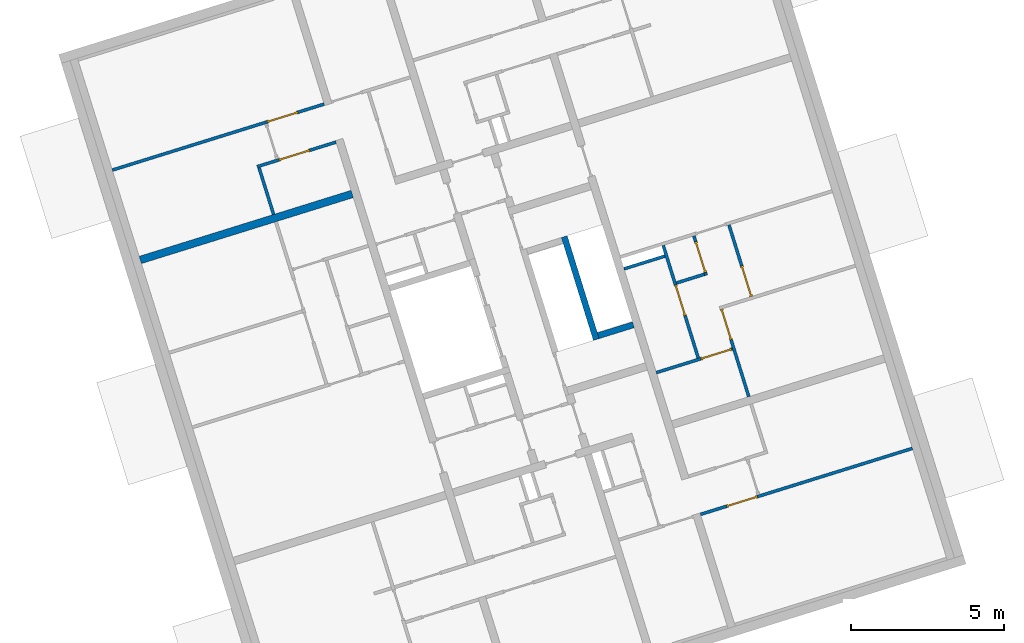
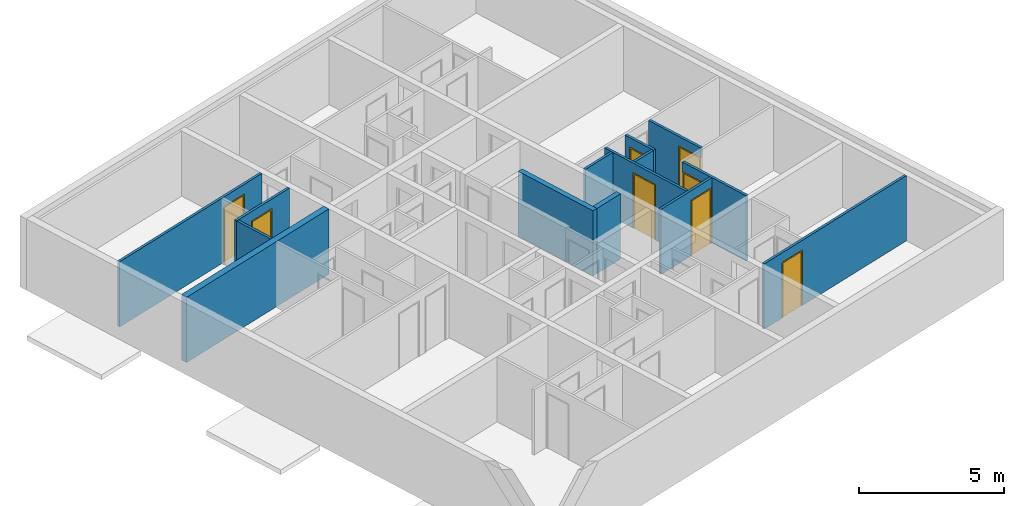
# One storey, part 4 of 9: 14 walls, 8 doors, 8 openings.
"""IFC4 building model written with IfcOpenShell, lengths in metres."""

import ifcopenshell
import ifcopenshell.guid

model = None  # the IFC model being written
_history = None  # IfcOwnerHistory: only IFC2X3 demands one
_inside = {}  # id of a spatial element -> (the spatial element, [elements in it])
_under = {}  # id of a project, library or spatial element -> (it, [spatial elements below it])
_declared = {}  # id of a project -> (the project, [libraries it declares])
_typed = {}  # id of a type object -> (the type object, [elements of that type])
_made_of = {}  # id of a material, layer set ... -> (it, [elements and type objects made of it])


def new_model(schema):
    """Start an empty IFC model of exactly this schema.

    Asked for "IFC4X3", IfcOpenShell would pick the latest addendum, in which some entities
    have other attributes; the version numbers below select the first issue.
    IFC2X3 requires an IfcOwnerHistory on every rooted entity: one is made here for all.
    """
    global model, _history
    if schema == "IFC4X3":
        model = ifcopenshell.file(schema_version=(4, 3, 0, 0))
    else:
        model = ifcopenshell.file(schema=schema)
    _inside.clear()
    _under.clear()
    _declared.clear()
    _typed.clear()
    _made_of.clear()
    _history = None
    if model.schema == "IFC2X3":
        org = make("IfcOrganization", Name="unknown")
        user = make(
            "IfcPersonAndOrganization",
            ThePerson=make("IfcPerson", FamilyName="unknown"),
            TheOrganization=org,
        )
        app = make(
            "IfcApplication",
            ApplicationDeveloper=org,
            Version="unknown",
            ApplicationFullName="unknown",
            ApplicationIdentifier="unknown",
        )
        _history = make(
            "IfcOwnerHistory",
            OwningUser=user,
            OwningApplication=app,
            ChangeAction="ADDED",
            CreationDate=0,
        )
    return model


def make(cls, **values):
    """One entity of the class cls with the attributes given. An attribute that is None is left unset."""
    return model.create_entity(
        cls, **{name: value for name, value in values.items() if value is not None}
    )


def entity(cls, *values):
    """Any entity or typed value of the class cls, its attributes in the order of the schema. None: left unset."""
    e = model.create_entity(cls)
    for i, value in enumerate(values):
        if value is not None:
            e[i] = value
    return e


def rooted(cls, **values):
    """An entity with a GlobalId (a new one), such as an element, a storey or a relation."""
    return make(cls, GlobalId=ifcopenshell.guid.new(), OwnerHistory=_history, **values)


def si_unit(unit_type, name, prefix=None):
    """IfcSIUnit, for example si_unit("LENGTHUNIT", "METRE", prefix="MILLI")."""
    return make("IfcSIUnit", UnitType=unit_type, Prefix=prefix, Name=name)


def converted_unit(unit_type, name, factor, base, dimensions=None, offset=None):
    """IfcConversionBasedUnit, such as the inch: factor (a typed value) times the base unit."""
    return make(
        "IfcConversionBasedUnit"
        if offset is None
        else "IfcConversionBasedUnitWithOffset",
        ConversionOffset=offset,
        Dimensions=None
        if dimensions is None
        else entity("IfcDimensionalExponents", *dimensions),
        UnitType=unit_type,
        Name=name,
        ConversionFactor=make(
            "IfcMeasureWithUnit", ValueComponent=factor, UnitComponent=base
        ),
    )


def assignment(units):
    """IfcUnitAssignment: the units of a project."""
    return None if units is None else make("IfcUnitAssignment", Units=units)


def point(xyz):
    """IfcCartesianPoint."""
    return None if xyz is None else make("IfcCartesianPoint", Coordinates=xyz)


def direction(xyz):
    """IfcDirection."""
    return None if xyz is None else make("IfcDirection", DirectionRatios=xyz)


def frame(location, z_axis=None, x_axis=None):
    """IfcAxis2Placement3D, a coordinate frame: its origin and axes. An axis left out is left unset."""
    return make(
        "IfcAxis2Placement3D",
        Location=point(location),
        Axis=direction(z_axis),
        RefDirection=direction(x_axis),
    )


def origin():
    """The frame at (0, 0, 0) with its axes left unset."""
    return frame((0.0, 0.0, 0.0))


def place(relative_to, where):
    """IfcLocalPlacement: puts the frame where relative to a parent placement (None: the world)."""
    return make(
        "IfcLocalPlacement", PlacementRelTo=relative_to, RelativePlacement=where
    )


def context(
    kind, dimensions, precision=None, world=None, true_north=None, identifier=None
):
    """IfcGeometricRepresentationContext, for example the 3D "Model" context."""
    return make(
        "IfcGeometricRepresentationContext",
        ContextIdentifier=identifier,
        ContextType=kind,
        CoordinateSpaceDimension=dimensions,
        Precision=precision,
        WorldCoordinateSystem=world,
        TrueNorth=true_north,
    )


def subcontext(parent, identifier, kind, view, scale=None):
    """IfcGeometricRepresentationSubContext, for example "Body" below "Model"."""
    return make(
        "IfcGeometricRepresentationSubContext",
        ContextIdentifier=identifier,
        ContextType=kind,
        ParentContext=parent,
        TargetScale=scale,
        TargetView=view,
    )


def project(units=None, contexts=None):
    """IfcProject with its units and contexts."""
    return rooted(
        "IfcProject",
        Name="project",
        RepresentationContexts=contexts,
        UnitsInContext=assignment(units),
    )


def spatial(cls, under=None, at=None, **own):
    """A site, building, storey or space (cls), placed at a placement, below another one or the project."""
    s = rooted(cls, ObjectPlacement=at, **own)
    if under is not None:
        _under.setdefault(under.id(), (under, []))[1].append(s)
    return s


def point_list(points):
    """IfcCartesianPointList2D or 3D."""
    cls = (
        "IfcCartesianPointList2D" if len(points[0]) == 2 else "IfcCartesianPointList3D"
    )
    return make(cls, CoordList=points)


def indexed_curve(points, segments=None, self_intersect=None):
    """IfcIndexedPolyCurve: lines and arcs through numbered points (the first is 1)."""
    return make(
        "IfcIndexedPolyCurve",
        Points=point_list(points),
        Segments=segments,
        SelfIntersect=self_intersect,
    )


def outline(outer, holes=None, kind="AREA"):
    """IfcArbitraryClosedProfileDef: a profile drawn as a closed curve; with holes, ...WithVoids."""
    if holes is None:
        return make("IfcArbitraryClosedProfileDef", ProfileType=kind, OuterCurve=outer)
    return make(
        "IfcArbitraryProfileDefWithVoids",
        ProfileType=kind,
        OuterCurve=outer,
        InnerCurves=holes,
    )


def extrude(swept, where, along, depth):
    """IfcExtrudedAreaSolid: the profile swept, set in the frame where, extruded along a direction by depth."""
    return make(
        "IfcExtrudedAreaSolid",
        SweptArea=swept,
        Position=where,
        ExtrudedDirection=direction(along),
        Depth=depth,
    )


def polygons(points, faces, closed=None, point_numbers=None):
    """IfcPolygonalFaceSet: a face is its outer loop, then its inner loops; points numbered from 1."""
    made = []
    for loops in faces:
        if len(loops) == 1:
            made.append(make("IfcIndexedPolygonalFace", CoordIndex=loops[0]))
        else:
            made.append(
                make(
                    "IfcIndexedPolygonalFaceWithVoids",
                    CoordIndex=loops[0],
                    InnerCoordIndices=loops[1:],
                )
            )
    return make(
        "IfcPolygonalFaceSet",
        Coordinates=point_list(points),
        Closed=closed,
        Faces=made,
        PnIndex=point_numbers,
    )


def shape(context_of_items, identifier, shape_type, items):
    """IfcShapeRepresentation: the items that make up one representation, for example the "Body"."""
    return make(
        "IfcShapeRepresentation",
        ContextOfItems=context_of_items,
        RepresentationIdentifier=identifier,
        RepresentationType=shape_type,
        Items=items,
    )


def source(mapping_origin, context_of_items, identifier, shape_type, items):
    """IfcRepresentationMap: a shape defined once, which mapped items show again and again."""
    return make(
        "IfcRepresentationMap",
        MappingOrigin=mapping_origin,
        MappedRepresentation=shape(context_of_items, identifier, shape_type, items),
    )


def transform(
    local_origin,
    x_axis=None,
    y_axis=None,
    z_axis=None,
    scale=None,
    scale2=None,
    scale3=None,
    uniform=True,
):
    """IfcCartesianTransformationOperator3D, or its non-uniform kind. x_axis, y_axis, z_axis: its Axis1, 2, 3."""
    if uniform:
        return make(
            "IfcCartesianTransformationOperator3D",
            Axis1=direction(x_axis),
            Axis2=direction(y_axis),
            LocalOrigin=point(local_origin),
            Scale=scale,
            Axis3=direction(z_axis),
        )
    return make(
        "IfcCartesianTransformationOperator3DnonUniform",
        Axis1=direction(x_axis),
        Axis2=direction(y_axis),
        LocalOrigin=point(local_origin),
        Scale=scale,
        Axis3=direction(z_axis),
        Scale2=scale2,
        Scale3=scale3,
    )


def mapped(mapping_source, mapping_target):
    """IfcMappedItem: shows the shape of a source again, moved by a transform."""
    return make(
        "IfcMappedItem", MappingSource=mapping_source, MappingTarget=mapping_target
    )


def material(Name=None, Category=None):
    """IfcMaterial."""
    return make("IfcMaterial", Name=Name, Category=Category)


def constituent(of_material, Name=None, Category=None, fraction=None):
    """IfcMaterialConstituent: one of the materials an element consists of."""
    return make(
        "IfcMaterialConstituent",
        Name=Name,
        Material=of_material,
        Fraction=fraction,
        Category=Category,
    )


def constituent_set(constituents=None, Name=None):
    """IfcMaterialConstituentSet."""
    return make(
        "IfcMaterialConstituentSet", Name=Name, MaterialConstituents=constituents
    )


def made_of(thing, what):
    """Note that an element or type object is made of a material, layer set ...; save() writes the relation."""
    if what is not None:
        _made_of.setdefault(what.id(), (what, []))[1].append(thing)
    return thing


def type_object(cls, material=None, **own):
    """A type object (cls), such as IfcWallType, which elements share."""
    return made_of(rooted(cls, **own), material)


def type_shapes(of_type, sources):
    """Give a type object the sources (RepresentationMaps) that its elements show as mapped items."""
    of_type.RepresentationMaps = sources


def element(
    cls,
    number,
    at=None,
    inside=None,
    cuts=None,
    type_object=None,
    material=None,
    context=None,
    identifier="Body",
    shape_type=None,
    held_by="IfcProductDefinitionShape",
    body=None,
    shapes=None,
    **own,
):
    """One element of the class cls, such as IfcWall. Its Tag is "e" and its number.

    at: its placement. inside: the storey or other place that contains it. cuts: it is an
    opening in that element (IfcRelVoidsElement). A single representation is given by context,
    identifier, shape_type and body (its items); several are given by shapes. held_by: the class
    of the entity that holds the representations. save() writes the other relations.
    """
    e = rooted(cls, Tag="e%d" % number, ObjectPlacement=at, **own)
    if body is not None:
        shapes = [shape(context, identifier, shape_type, body)]
    if shapes is not None:
        e.Representation = make(held_by, Representations=shapes)
    if inside is not None:
        _inside.setdefault(inside.id(), (inside, []))[1].append(e)
    if cuts is not None:
        rooted(
            "IfcRelVoidsElement", RelatingBuildingElement=cuts, RelatedOpeningElement=e
        )
    if type_object is not None:
        _typed.setdefault(type_object.id(), (type_object, []))[1].append(e)
    return made_of(e, material)


def fill(opening, filler):
    """IfcRelFillsElement: the door or window that sits in an opening."""
    return rooted(
        "IfcRelFillsElement",
        RelatingOpeningElement=opening,
        RelatedBuildingElement=filler,
    )


def aggregate(whole, parts):
    """IfcRelAggregates: a whole, such as a stair, and the parts it consists of."""
    return rooted("IfcRelAggregates", RelatingObject=whole, RelatedObjects=parts)


def save(model, path):
    """Write the relations noted so far, then the file.

    IfcRelAggregates (storeys below a building ...), IfcRelContainedInSpatialStructure (elements
    in a storey), IfcRelDefinesByType, IfcRelAssociatesMaterial and IfcRelDeclares: one each for
    every whole, place, type object, material and project.
    """
    for whole, parts in _under.values():
        aggregate(whole, parts)
    for where, things in _inside.values():
        rooted(
            "IfcRelContainedInSpatialStructure",
            RelatedElements=things,
            RelatingStructure=where,
        )
    for kind, things in _typed.values():
        rooted("IfcRelDefinesByType", RelatedObjects=things, RelatingType=kind)
    for what, things in _made_of.values():
        rooted("IfcRelAssociatesMaterial", RelatedObjects=things, RelatingMaterial=what)
    for by, libraries in _declared.values():
        rooted("IfcRelDeclares", RelatingContext=by, RelatedDefinitions=libraries)
    model.write(path)


model = new_model("IFC4")

# Units and contexts
model_context = context("Model", 3, precision=1e-05, world=origin(), true_north=direction((6.12323399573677e-17, 1.0)))
body_context = subcontext(model_context, "Body", "Model", "MODEL_VIEW")
ifc_project = project(units=[si_unit("LENGTHUNIT", "METRE"), si_unit("AREAUNIT", "SQUARE_METRE"), si_unit("VOLUMEUNIT", "CUBIC_METRE"), converted_unit("PLANEANGLEUNIT", "DEGREE", entity("IfcPlaneAngleMeasure", 0.0174532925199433), si_unit("PLANEANGLEUNIT", "RADIAN"), dimensions=[0, 0, 0, 0, 0, 0, 0])], contexts=[model_context])

# Site, building, storey
site_placement = place(None, frame((13.1347999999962, 11.9886000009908, 0.0), z_axis=(0.0, 0.0, 1.0), x_axis=(0.954770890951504, 0.297342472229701, 0.0)))
site = spatial("IfcSite", under=ifc_project, at=site_placement, Name="Schiehaven", CompositionType="ELEMENT")
building_placement = place(site_placement, origin())
building = spatial("IfcBuilding", under=site, at=building_placement, Name="VORM huis", CompositionType="ELEMENT")
storey_placement = place(building_placement, frame((0.0, 0.0, 24.9)))
storey = spatial("IfcBuildingStorey", under=building, at=storey_placement, Name="08 achtste verdieping", CompositionType="ELEMENT", Elevation=24.9)

# Walls
ifc_material_1 = material(Name="beton_gewapend_prefab-element", Category="Miscellaneous")
wall_type_1 = type_object("IfcWallType", Name="Basic Wall:28_WA_skelet_wand 200mm_gen", PredefinedType="STANDARD")
wall_1_placement = place(storey_placement, frame((18.5750000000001, 15.29, 0.0), z_axis=(0.0, 0.0, 1.0), x_axis=(0.0, 1.0, 0.0)))
element("IfcWall", 1, at=wall_1_placement, inside=storey, type_object=wall_type_1, material=ifc_material_1, Name="Constructieve wand", ObjectType="Wand", PredefinedType="NOTDEFINED", context=body_context, shape_type="SweptSolid", body=[
    extrude(outline(indexed_curve([(3.52, 0.0999999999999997), (-6.36077049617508e-16, 0.0999999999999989), (6.36077049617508e-16, -0.0999999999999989), (3.52, -0.0999999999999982), (3.52, 0.0999999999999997)], self_intersect=False)), origin(), (0.0, 0.0, 1.0), 2.75),
])
ifc_material_2 = material(Name="ntb_ntb_ntb", Category="Miscellaneous")
wall_type_2 = type_object("IfcWallType", Name="Basic Wall:22_WA_afbouw_binnenwand 250mm_gen", PredefinedType="STANDARD")
wall_2_placement = place(storey_placement, frame((12.3750000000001, 22.2, 0.0), z_axis=(0.0, 0.0, 1.0), x_axis=(-1.0, 0.0, 0.0)))
element("IfcWall", 2, at=wall_2_placement, inside=storey, type_object=wall_type_2, material=ifc_material_2, Name="Binnenwand", ObjectType="Wand", PredefinedType="NOTDEFINED", context=body_context, shape_type="SweptSolid", body=[
    extrude(outline(indexed_curve([(7.24999999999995, 0.125000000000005), (-4.9649652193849e-16, 0.125000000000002), (4.9649652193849e-16, -0.125000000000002), (7.24999999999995, -0.124999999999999), (7.24999999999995, 0.125000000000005)], self_intersect=False)), origin(), (0.0, 0.0, 1.0), 2.75),
])

# Wall, opening, door
wall_type_3 = type_object("IfcWallType", Name="Basic Wall:22_WA_afbouw_binnenwand 100mm_gen", PredefinedType="STANDARD")
wall_3_placement = place(storey_placement, frame((27.3750000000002, 8.82499999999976, 0.0), z_axis=(0.0, 0.0, 1.0), x_axis=(-1.0, 0.0, 0.0)))
wall_3 = element("IfcWall", 3, at=wall_3_placement, inside=storey, type_object=wall_type_3, material=ifc_material_2, Name="Binnenwand", ObjectType="Wand", PredefinedType="NOTDEFINED", context=body_context, shape_type="Tessellation", body=[
    polygons([(6.35000000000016, -0.0500000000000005, 2.34999999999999), (6.35000000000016, -0.0500000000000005, 0.0), (7.25000000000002, -0.0500000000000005, 0.0), (7.25000000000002, -0.0500000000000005, 2.75), (5.30000000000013, -0.0500000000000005, 2.75), (5.20000000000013, -0.0500000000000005, 2.75), (5.16304195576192e-15, -0.0500000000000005, 2.75), (5.16304195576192e-15, -0.0500000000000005, 0.0), (5.20000000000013, -0.0500000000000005, 0.0), (5.30000000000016, -0.0500000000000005, 0.0), (5.30000000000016, -0.0500000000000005, 2.34999999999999), (7.25000000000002, 0.0499999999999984, 0.0), (6.35000000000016, 0.0499999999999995, 0.0), (6.35000000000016, 0.0499999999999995, 2.34999999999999), (5.30000000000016, 0.0499999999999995, 2.34999999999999), (5.30000000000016, 0.0499999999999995, 0.0), (4.86084043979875e-15, 0.0500000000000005, 0.0), (4.86084043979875e-15, 0.0500000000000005, 2.75), (7.25000000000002, 0.0499999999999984, 2.75)], [[[1, 2, 3, 4, 5, 6, 7, 8, 9, 10, 11]], [[12, 13, 14, 15, 16, 17, 18, 19]], [[10, 9, 8, 17, 16]], [[4, 3, 12, 19]], [[7, 6, 5, 4, 19, 18]], [[8, 7, 18, 17]], [[16, 15, 11, 10]], [[14, 13, 2, 1]], [[15, 14, 1, 11]], [[3, 2, 13, 12]]], closed=True),
])
opening_1_placement = place(wall_3_placement, frame((6.35000000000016, 0.04999999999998, 0.0)))
opening_1 = element("IfcOpeningElement", 4, at=opening_1_placement, cuts=wall_3, Name="Binnendeur", PredefinedType="OPENING", context=body_context, shape_type="SweptSolid", body=[
    extrude(outline(indexed_curve([(2.34999999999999, 1.05), (0.0, 1.05), (0.0, 0.0), (2.34999999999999, 0.0), (2.34999999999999, 1.05)], self_intersect=False)), frame((0.0, 0.0, 0.0), z_axis=(0.0, -1.0, 0.0), x_axis=(0.0, 0.0, 1.0)), (0.0, 0.0, 1.0), 0.1),
])
ifc_material_3 = material(Name="PD_a_binnenwandopeningen", Category="Miscellaneous")
ifc_constituent_1 = constituent(ifc_material_3, Name="PD_a_binnenwandopeningen", Category="Miscellaneous")
ifc_material_4 = material(Name="metaal_aluminium_ntb", Category="Miscellaneous")
ifc_constituent_2 = constituent(ifc_material_4, Name="metaal_aluminium_ntb", Category="Miscellaneous")
ifc_constituent_set_1 = constituent_set(constituents=[ifc_constituent_1, ifc_constituent_2])
door_type = type_object("IfcDoorType", Name="32_DO_binnendeur enkel:binnendeur", OperationType="REVOLVING", PredefinedType="DOOR")
shared_shape = source(origin(), body_context, "Body", "SweptSolid", [
    extrude(outline(indexed_curve([(-1.16249999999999, -0.525000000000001), (1.18749999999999, -0.525), (1.18749999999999, 0.525), (-1.16249999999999, 0.525), (-1.16249999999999, 0.475), (1.13749999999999, 0.475), (1.13749999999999, -0.475), (-1.16249999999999, -0.475), (-1.16249999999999, -0.525000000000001)], self_intersect=False)), frame((0.525000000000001, 0.0, 1.16249999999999), z_axis=(0.0, 1.0, 0.0), x_axis=(0.0, 0.0, 1.0)), (0.0, 0.0, 1.0), 0.1),
    extrude(outline(indexed_curve([(-0.025, -0.475), (0.025, -0.475), (0.025, 0.475), (-0.025, 0.475), (-0.025, -0.475)], self_intersect=False)), frame((0.525000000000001, 0.0499999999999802, 0.0), z_axis=(0.0, 0.0, 1.0), x_axis=(0.0, 1.0, 0.0)), (0.0, 0.0, 1.0), 2.29999999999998),
])
type_shapes(door_type, [shared_shape])
door_1_placement = place(opening_1_placement, frame((0.0, 0.0, 0.0), z_axis=(0.0, 0.0, 1.0), x_axis=(-1.0, 0.0, 0.0)))
door_1 = element("IfcDoor", 5, at=door_1_placement, inside=storey, type_object=door_type, material=ifc_constituent_set_1, Name="Binnendeur", ObjectType="Deur", OperationType="REVOLVING", OverallHeight=2.34999999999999, OverallWidth=1.05, PredefinedType="DOOR", context=body_context, shape_type="MappedRepresentation", body=[
    mapped(shared_shape, transform((0.0, 0.0, 0.0), scale=1.0)),
])
fill(opening_1, door_1)

wall_4_placement = place(storey_placement, frame((22.6250000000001, 16.225, 0.0), z_axis=(0.0, 0.0, 1.0), x_axis=(0.0, 1.0, 0.0)))
wall_4 = element("IfcWall", 6, at=wall_4_placement, inside=storey, type_object=wall_type_3, material=ifc_material_2, Name="Binnenwand", ObjectType="Wand", PredefinedType="NOTDEFINED", context=body_context, shape_type="Tessellation", body=[
    polygons([(1.15, -0.0499999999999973, 2.34999999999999), (1.15, -0.0499999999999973, 0.0), (1.35, -0.0499999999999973, 0.0), (1.35, -0.0499999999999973, 2.75), (0.0, -0.0499999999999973, 2.75), (0.0, -0.0499999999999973, 0.0), (0.100000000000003, -0.0499999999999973, 0.0), (0.100000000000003, -0.0499999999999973, 2.34999999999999), (1.35, 0.0500000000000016, 0.0), (1.15, 0.0500000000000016, 0.0), (1.15, 0.0500000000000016, 2.34999999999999), (0.100000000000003, 0.0500000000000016, 2.34999999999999), (0.100000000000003, 0.0500000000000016, 0.0), (0.0, 0.0500000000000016, 0.0), (0.0, 0.0500000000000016, 2.75), (0.100000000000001, 0.0500000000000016, 2.75), (1.35, 0.0500000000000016, 2.75)], [[[1, 2, 3, 4, 5, 6, 7, 8]], [[9, 10, 11, 12, 13, 14, 15, 16, 17]], [[7, 6, 14, 13]], [[5, 4, 17, 16, 15]], [[13, 12, 8, 7]], [[11, 10, 2, 1]], [[12, 11, 1, 8]], [[6, 5, 15, 14]], [[4, 3, 9, 17]], [[3, 2, 10, 9]]], closed=True),
])
opening_2_placement = place(wall_4_placement, frame((1.15000000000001, 0.0500000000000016, 0.0)))
opening_2 = element("IfcOpeningElement", 7, at=opening_2_placement, cuts=wall_4, Name="Binnendeur", PredefinedType="OPENING", context=body_context, shape_type="SweptSolid", body=[
    extrude(outline(indexed_curve([(2.34999999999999, 1.05), (0.0, 1.05), (0.0, 1.35358391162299e-15), (2.34999999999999, 1.35358391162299e-15), (2.34999999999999, 1.05)], self_intersect=False)), frame((0.0, 0.0, 0.0), z_axis=(0.0, -1.0, 0.0), x_axis=(0.0, 0.0, 1.0)), (0.0, 0.0, 1.0), 0.1),
])
ifc_constituent_3 = constituent(ifc_material_3, Name="PD_a_binnenwandopeningen", Category="Miscellaneous")
ifc_constituent_4 = constituent(ifc_material_4, Name="metaal_aluminium_ntb", Category="Miscellaneous")
ifc_constituent_set_2 = constituent_set(constituents=[ifc_constituent_3, ifc_constituent_4])
door_2_placement = place(opening_2_placement, frame((0.0, 0.0, 0.0), z_axis=(0.0, 0.0, 1.0), x_axis=(-1.0, 0.0, 0.0)))
door_2 = element("IfcDoor", 8, at=door_2_placement, inside=storey, type_object=door_type, material=ifc_constituent_set_2, Name="Binnendeur", ObjectType="Deur", OperationType="REVOLVING", OverallHeight=2.34999999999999, OverallWidth=1.05, PredefinedType="DOOR", context=body_context, shape_type="MappedRepresentation", body=[
    mapped(shared_shape, transform((0.0, 0.0, 0.0), scale=1.0)),
])
fill(opening_2, door_2)

# Walls
wall_5_placement = place(storey_placement, frame((21.6250000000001, 16.275, 0.0)))
element("IfcWall", 9, at=wall_5_placement, inside=storey, type_object=wall_type_3, material=ifc_material_2, Name="Binnenwand", ObjectType="Wand", PredefinedType="NOTDEFINED", context=body_context, shape_type="SweptSolid", body=[
    extrude(outline(indexed_curve([(0.950000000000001, 0.0499999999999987), (-1.88291440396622e-16, 0.0499999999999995), (1.88291440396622e-16, -0.0499999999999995), (0.950000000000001, -0.0500000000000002), (0.950000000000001, 0.0499999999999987)], self_intersect=False)), origin(), (0.0, 0.0, 1.0), 2.75),
])
wall_6_placement = place(storey_placement, frame((20.1228357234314, 17.225, 0.0)))
element("IfcWall", 10, at=wall_6_placement, inside=storey, type_object=wall_type_3, material=ifc_material_2, Name="Binnenwand", ObjectType="Wand", PredefinedType="NOTDEFINED", context=body_context, shape_type="SweptSolid", body=[
    extrude(outline(indexed_curve([(1.40216427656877, 0.0500000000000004), (-1.88291440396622e-16, 0.0499999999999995), (1.88291440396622e-16, -0.0499999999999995), (1.40216427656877, -0.0499999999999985), (1.40216427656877, 0.0500000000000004)], self_intersect=False)), origin(), (0.0, 0.0, 1.0), 2.75),
])

# Wall, opening, door
wall_7_placement = place(storey_placement, frame((23.8250000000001, 15.125, 0.0), z_axis=(0.0, 0.0, 1.0), x_axis=(0.0, 1.0, 0.0)))
wall_7 = element("IfcWall", 11, at=wall_7_placement, inside=storey, type_object=wall_type_3, material=ifc_material_2, Name="Binnenwand", ObjectType="Wand", PredefinedType="NOTDEFINED", context=body_context, shape_type="Tessellation", body=[
    polygons([(2.45, -0.0499999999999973, 2.75), (0.0, -0.0499999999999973, 2.75), (0.0, -0.0499999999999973, 2.34999999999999), (1.05, -0.0499999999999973, 2.34999999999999), (1.05, -0.0499999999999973, 0.0), (2.45, -0.0499999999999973, 0.0), (0.0, 0.0500000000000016, 2.75), (2.45, 0.0500000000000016, 2.75), (2.45, 0.0500000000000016, 0.0), (1.05, 0.0500000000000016, 0.0), (1.05, 0.0500000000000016, 2.34999999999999), (0.0, 0.0500000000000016, 2.34999999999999)], [[[1, 2, 3, 4, 5, 6]], [[7, 8, 9, 10, 11, 12]], [[9, 6, 5, 10]], [[2, 1, 8, 7]], [[4, 11, 10, 5]], [[11, 4, 3, 12]], [[2, 7, 12, 3]], [[1, 6, 9, 8]]], closed=True),
])
opening_3_placement = place(wall_7_placement, frame((0.0, -0.050000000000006, 0.0)))
opening_3 = element("IfcOpeningElement", 12, at=opening_3_placement, cuts=wall_7, Name="Binnendeur", PredefinedType="OPENING", context=body_context, shape_type="SweptSolid", body=[
    extrude(outline(indexed_curve([(2.34999999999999, 1.05), (0.0, 1.05), (0.0, 1.35358391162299e-15), (2.34999999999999, 1.35358391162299e-15), (2.34999999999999, 1.05)], self_intersect=False)), frame((0.0, 0.0, 0.0), z_axis=(0.0, 1.0, 0.0), x_axis=(0.0, 0.0, 1.0)), (0.0, 0.0, 1.0), 0.1),
])
ifc_constituent_5 = constituent(ifc_material_3, Name="PD_a_binnenwandopeningen", Category="Miscellaneous")
ifc_constituent_6 = constituent(ifc_material_4, Name="metaal_aluminium_ntb", Category="Miscellaneous")
ifc_constituent_set_3 = constituent_set(constituents=[ifc_constituent_5, ifc_constituent_6])
door_3_placement = place(opening_3_placement, origin())
door_3 = element("IfcDoor", 13, at=door_3_placement, inside=storey, type_object=door_type, material=ifc_constituent_set_3, Name="Binnendeur", ObjectType="Deur", OperationType="REVOLVING", OverallHeight=2.34999999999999, OverallWidth=1.05, PredefinedType="DOOR", context=body_context, shape_type="MappedRepresentation", body=[
    mapped(shared_shape, transform((0.0, 0.0, 0.0), scale=1.0)),
])
fill(opening_3, door_3)

wall_8_placement = place(storey_placement, frame((22.7750000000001, 12.025, 0.0), z_axis=(0.0, 0.0, 1.0), x_axis=(0.0, 1.0, 0.0)))
wall_8 = element("IfcWall", 14, at=wall_8_placement, inside=storey, type_object=wall_type_3, material=ifc_material_2, Name="Binnenwand", ObjectType="Wand", PredefinedType="NOTDEFINED", context=body_context, shape_type="Tessellation", body=[
    polygons([(3.00000000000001, -0.0499999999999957, 2.75), (0.0, -0.049999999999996, 2.75), (0.0, -0.049999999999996, 0.0), (1.95000000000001, -0.0499999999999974, 0.0), (1.95000000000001, -0.0499999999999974, 2.34999999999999), (3.00000000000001, -0.0499999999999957, 2.34999999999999), (0.0, 0.0500000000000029, 2.75), (1.60000000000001, 0.050000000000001, 2.75), (1.70000000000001, 0.0500000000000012, 2.75), (3.00000000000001, 0.0500000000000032, 2.75), (3.00000000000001, 0.0500000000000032, 2.34999999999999), (1.95000000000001, 0.0500000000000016, 2.34999999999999), (1.95000000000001, 0.0500000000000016, 0.0), (1.70000000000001, 0.0500000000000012, 0.0), (1.60000000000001, 0.050000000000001, 0.0), (0.0, 0.0500000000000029, 0.0)], [[[1, 2, 3, 4, 5, 6]], [[7, 8, 9, 10, 11, 12, 13, 14, 15, 16]], [[3, 16, 15, 14, 13, 4]], [[2, 1, 10, 9, 8, 7]], [[3, 2, 7, 16]], [[12, 5, 4, 13]], [[5, 12, 11, 6]], [[10, 1, 6, 11]]], closed=True),
])
opening_4_placement = place(wall_8_placement, frame((1.95000000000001, -0.0500000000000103, 0.0)))
opening_4 = element("IfcOpeningElement", 15, at=opening_4_placement, cuts=wall_8, Name="Binnendeur", PredefinedType="OPENING", context=body_context, shape_type="SweptSolid", body=[
    extrude(outline(indexed_curve([(2.34999999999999, 1.05), (0.0, 1.05), (0.0, 1.35358391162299e-15), (2.34999999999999, 1.35358391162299e-15), (2.34999999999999, 1.05)], self_intersect=False)), frame((0.0, 0.0, 0.0), z_axis=(0.0, 1.0, 0.0), x_axis=(0.0, 0.0, 1.0)), (0.0, 0.0, 1.0), 0.1),
])
ifc_constituent_7 = constituent(ifc_material_3, Name="PD_a_binnenwandopeningen", Category="Miscellaneous")
ifc_constituent_8 = constituent(ifc_material_4, Name="metaal_aluminium_ntb", Category="Miscellaneous")
ifc_constituent_set_4 = constituent_set(constituents=[ifc_constituent_7, ifc_constituent_8])
door_4_placement = place(opening_4_placement, origin())
door_4 = element("IfcDoor", 16, at=door_4_placement, inside=storey, type_object=door_type, material=ifc_constituent_set_4, Name="Binnendeur", ObjectType="Deur", OperationType="REVOLVING", OverallHeight=2.34999999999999, OverallWidth=1.05, PredefinedType="DOOR", context=body_context, shape_type="MappedRepresentation", body=[
    mapped(shared_shape, transform((0.0, 0.0, 0.0), scale=1.0)),
])
fill(opening_4, door_4)

wall_9_placement = place(storey_placement, frame((22.7250000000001, 13.675, 0.0), z_axis=(0.0, 0.0, 1.0), x_axis=(-1.0, 0.0, 0.0)))
wall_9 = element("IfcWall", 17, at=wall_9_placement, inside=storey, type_object=wall_type_3, material=ifc_material_2, Name="Binnenwand", ObjectType="Wand", PredefinedType="NOTDEFINED", context=body_context, shape_type="Tessellation", body=[
    polygons([(1.075, -0.0499999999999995, 2.34999999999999), (1.075, -0.0499999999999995, 0.0), (1.1, -0.0499999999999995, 0.0), (1.2, -0.0499999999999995, 0.0), (2.59999999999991, -0.0500000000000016, 0.0), (2.59999999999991, -0.0500000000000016, 2.75), (1.2, -0.0499999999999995, 2.75), (1.1, -0.0499999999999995, 2.75), (1.50273447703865e-15, -0.0500000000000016, 2.75), (1.50273447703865e-15, -0.0500000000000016, 0.0), (0.0250000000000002, -0.0500000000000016, 0.0), (0.0250000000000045, -0.0500000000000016, 2.34999999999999), (2.59999999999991, 0.0500000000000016, 0.0), (1.075, 0.0500000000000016, 0.0), (1.075, 0.0500000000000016, 2.34999999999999), (0.0250000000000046, 0.0499999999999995, 2.34999999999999), (0.0250000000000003, 0.0499999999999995, 0.0), (1.64958043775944e-15, 0.0499999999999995, 0.0), (1.64958043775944e-15, 0.0499999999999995, 2.75), (2.59999999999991, 0.0500000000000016, 2.75)], [[[1, 2, 3, 4, 5, 6, 7, 8, 9, 10, 11, 12]], [[13, 14, 15, 16, 17, 18, 19, 20]], [[11, 10, 18, 17]], [[6, 5, 13, 20]], [[9, 8, 7, 6, 20, 19]], [[17, 16, 12, 11]], [[15, 14, 2, 1]], [[16, 15, 1, 12]], [[10, 9, 19, 18]], [[5, 4, 3, 2, 14, 13]]], closed=True),
])
opening_5_placement = place(wall_9_placement, frame((1.075, 0.050000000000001, 0.0)))
opening_5 = element("IfcOpeningElement", 18, at=opening_5_placement, cuts=wall_9, Name="Binnendeur", PredefinedType="OPENING", context=body_context, shape_type="SweptSolid", body=[
    extrude(outline(indexed_curve([(2.34999999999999, 1.05), (0.0, 1.05), (0.0, 2.27341277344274e-30), (2.34999999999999, 2.27341277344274e-30), (2.34999999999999, 1.05)], self_intersect=False)), frame((0.0, 0.0, 0.0), z_axis=(0.0, -1.0, 0.0), x_axis=(0.0, 0.0, 1.0)), (0.0, 0.0, 1.0), 0.1),
])
ifc_constituent_9 = constituent(ifc_material_3, Name="PD_a_binnenwandopeningen", Category="Miscellaneous")
ifc_constituent_10 = constituent(ifc_material_4, Name="metaal_aluminium_ntb", Category="Miscellaneous")
ifc_constituent_set_5 = constituent_set(constituents=[ifc_constituent_9, ifc_constituent_10])
door_5_placement = place(opening_5_placement, frame((0.0, 0.0, 0.0), z_axis=(0.0, 0.0, 1.0), x_axis=(-1.0, 0.0, 0.0)))
door_5 = element("IfcDoor", 19, at=door_5_placement, inside=storey, type_object=door_type, material=ifc_constituent_set_5, Name="Binnendeur", ObjectType="Deur", OperationType="REVOLVING", OverallHeight=2.34999999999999, OverallWidth=1.05, PredefinedType="DOOR", context=body_context, shape_type="MappedRepresentation", body=[
    mapped(shared_shape, transform((0.0, 0.0, 0.0), scale=1.0)),
])
fill(opening_5, door_5)

wall_10_placement = place(storey_placement, frame((21.5750000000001, 13.725, 0.0), z_axis=(0.0, 0.0, 1.0), x_axis=(0.0, 1.0, 0.0)))
wall_10 = element("IfcWall", 20, at=wall_10_placement, inside=storey, type_object=wall_type_3, material=ifc_material_2, Name="Binnenwand", ObjectType="Wand", PredefinedType="NOTDEFINED", context=body_context, shape_type="Tessellation", body=[
    polygons([(2.50000000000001, -0.0499999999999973, 2.34999999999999), (2.50000000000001, -0.0499999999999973, 0.0), (2.60000000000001, -0.0499999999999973, 0.0), (3.85000000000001, -0.0499999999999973, 0.0), (3.85000000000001, -0.0499999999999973, 2.75), (2.60000000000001, -0.0499999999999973, 2.75), (2.50000000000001, -0.0499999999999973, 2.75), (2.16573425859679e-15, -0.0499999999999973, 2.75), (0.0, -0.0499999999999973, 0.0), (1.45000000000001, -0.0499999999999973, 0.0), (1.45000000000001, -0.0499999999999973, 2.34999999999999), (3.85000000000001, 0.0500000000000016, 0.0), (3.55000000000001, 0.0500000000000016, 0.0), (3.45000000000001, 0.0500000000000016, 0.0), (2.50000000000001, 0.0500000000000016, 0.0), (2.50000000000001, 0.0500000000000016, 2.34999999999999), (1.45000000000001, 0.0500000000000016, 2.34999999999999), (1.45000000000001, 0.0500000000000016, 0.0), (0.0, 0.0500000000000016, 0.0), (0.0, 0.0500000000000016, 2.75), (3.45000000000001, 0.0500000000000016, 2.75), (3.55000000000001, 0.0500000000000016, 2.75), (3.85000000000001, 0.0500000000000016, 2.75)], [[[1, 2, 3, 4, 5, 6, 7, 8, 9, 10, 11]], [[12, 13, 14, 15, 16, 17, 18, 19, 20, 21, 22, 23]], [[10, 9, 19, 18]], [[8, 7, 6, 5, 23, 22, 21, 20]], [[18, 17, 11, 10]], [[16, 15, 2, 1]], [[17, 16, 1, 11]], [[9, 8, 20, 19]], [[5, 4, 12, 23]], [[4, 3, 2, 15, 14, 13, 12]]], closed=True),
])
opening_6_placement = place(wall_10_placement, frame((2.50000000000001, 0.0499999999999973, 0.0)))
opening_6 = element("IfcOpeningElement", 21, at=opening_6_placement, cuts=wall_10, Name="Binnendeur", PredefinedType="OPENING", context=body_context, shape_type="SweptSolid", body=[
    extrude(outline(indexed_curve([(2.34999999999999, 1.05), (0.0, 1.05), (0.0, 1.08286712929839e-15), (2.34999999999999, 1.08286712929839e-15), (2.34999999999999, 1.05)], self_intersect=False)), frame((0.0, 0.0, 0.0), z_axis=(0.0, -1.0, 0.0), x_axis=(0.0, 0.0, 1.0)), (0.0, 0.0, 1.0), 0.1),
])
ifc_constituent_11 = constituent(ifc_material_3, Name="PD_a_binnenwandopeningen", Category="Miscellaneous")
ifc_constituent_12 = constituent(ifc_material_4, Name="metaal_aluminium_ntb", Category="Miscellaneous")
ifc_constituent_set_6 = constituent_set(constituents=[ifc_constituent_11, ifc_constituent_12])
door_6_placement = place(opening_6_placement, frame((0.0, 0.0, 0.0), z_axis=(0.0, 0.0, 1.0), x_axis=(-1.0, 0.0, 0.0)))
door_6 = element("IfcDoor", 22, at=door_6_placement, inside=storey, type_object=door_type, material=ifc_constituent_set_6, Name="Binnendeur", ObjectType="Deur", OperationType="REVOLVING", OverallHeight=2.34999999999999, OverallWidth=1.05, PredefinedType="DOOR", context=body_context, shape_type="MappedRepresentation", body=[
    mapped(shared_shape, transform((0.0, 0.0, 0.0), scale=1.0)),
])
fill(opening_6, door_6)

wall_11_placement = place(storey_placement, frame((9.6750000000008, 23.9750000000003, 0.0)))
wall_11 = element("IfcWall", 23, at=wall_11_placement, inside=storey, type_object=wall_type_3, material=ifc_material_2, Name="Binnenwand", ObjectType="Wand", PredefinedType="NOTDEFINED", context=body_context, shape_type="Tessellation", body=[
    polygons([(1.04557742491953e-15, -0.0499999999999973, 0.0), (0.100000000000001, -0.0499999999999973, 0.0), (0.750000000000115, -0.0499999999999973, 0.0), (0.750000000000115, -0.0499999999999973, 2.34999999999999), (1.80000000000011, -0.0499999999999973, 2.34999999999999), (1.80000000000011, -0.0499999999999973, 0.0), (2.69999999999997, -0.0499999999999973, 0.0), (2.69999999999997, -0.0499999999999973, 2.75), (0.100000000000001, -0.0499999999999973, 2.75), (-1.12015683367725e-15, -0.0499999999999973, 2.75), (0.750000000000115, 0.0500000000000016, 2.34999999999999), (0.750000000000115, 0.0500000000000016, 0.0), (0.650000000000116, 0.0500000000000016, 0.0), (8.10064863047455e-16, 0.0500000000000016, 0.0), (8.10064863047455e-16, 0.0500000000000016, 2.75), (0.650000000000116, 0.0500000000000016, 2.75), (0.750000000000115, 0.0500000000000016, 2.75), (2.69999999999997, 0.0500000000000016, 2.75), (2.69999999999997, 0.0500000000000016, 0.0), (1.80000000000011, 0.0500000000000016, 0.0), (1.80000000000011, 0.0500000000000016, 2.34999999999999)], [[[1, 2, 3, 4, 5, 6, 7, 8, 9, 10]], [[11, 12, 13, 14, 15, 16, 17, 18, 19, 20, 21]], [[14, 13, 12, 3, 2, 1]], [[8, 7, 19, 18]], [[10, 9, 8, 18, 17, 16, 15]], [[6, 5, 21, 20]], [[4, 3, 12, 11]], [[5, 4, 11, 21]], [[1, 10, 15, 14]], [[20, 19, 7, 6]]], closed=True),
])
opening_7_placement = place(wall_11_placement, frame((0.750000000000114, -0.050000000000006, 0.0)))
opening_7 = element("IfcOpeningElement", 24, at=opening_7_placement, cuts=wall_11, Name="Binnendeur", PredefinedType="OPENING", context=body_context, shape_type="SweptSolid", body=[
    extrude(outline(indexed_curve([(2.34999999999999, 1.05), (0.0, 1.05), (0.0, 1.35358391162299e-15), (2.34999999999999, 1.35358391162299e-15), (2.34999999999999, 1.05)], self_intersect=False)), frame((0.0, 0.0, 0.0), z_axis=(0.0, 1.0, 0.0), x_axis=(0.0, 0.0, 1.0)), (0.0, 0.0, 1.0), 0.1),
])
ifc_constituent_13 = constituent(ifc_material_3, Name="PD_a_binnenwandopeningen", Category="Miscellaneous")
ifc_constituent_14 = constituent(ifc_material_4, Name="metaal_aluminium_ntb", Category="Miscellaneous")
ifc_constituent_set_7 = constituent_set(constituents=[ifc_constituent_13, ifc_constituent_14])
door_7_placement = place(opening_7_placement, origin())
door_7 = element("IfcDoor", 25, at=door_7_placement, inside=storey, type_object=door_type, material=ifc_constituent_set_7, Name="Binnendeur", ObjectType="Deur", OperationType="REVOLVING", OverallHeight=2.34999999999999, OverallWidth=1.05, PredefinedType="DOOR", context=body_context, shape_type="MappedRepresentation", body=[
    mapped(shared_shape, transform((0.0, 0.0, 0.0), scale=1.0)),
])
fill(opening_7, door_7)

wall_12_placement = place(storey_placement, frame((5.12500000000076, 25.2750000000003, 0.0)))
wall_12 = element("IfcWall", 26, at=wall_12_placement, inside=storey, type_object=wall_type_3, material=ifc_material_2, Name="Binnenwand", ObjectType="Wand", PredefinedType="NOTDEFINED", context=body_context, shape_type="Tessellation", body=[
    polygons([(6.35000000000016, -0.0499999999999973, 2.34999999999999), (6.35000000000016, -0.0499999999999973, 0.0), (7.25000000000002, -0.0499999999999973, 0.0), (7.25000000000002, -0.0499999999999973, 2.75), (5.30000000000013, -0.0499999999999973, 2.75), (5.20000000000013, -0.0499999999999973, 2.75), (1.49648379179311e-16, -0.0499999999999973, 2.75), (1.49648379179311e-16, -0.0499999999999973, 0.0), (5.20000000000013, -0.0499999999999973, 0.0), (5.30000000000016, -0.0499999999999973, 0.0), (5.30000000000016, -0.0499999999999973, 2.34999999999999), (7.25000000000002, 0.0500000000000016, 0.0), (6.35000000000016, 0.0500000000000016, 0.0), (6.35000000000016, 0.0500000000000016, 2.34999999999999), (5.30000000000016, 0.0500000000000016, 2.34999999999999), (5.30000000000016, 0.0500000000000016, 0.0), (-8.58641826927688e-17, 0.0500000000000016, 0.0), (-8.58641826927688e-17, 0.0500000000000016, 2.75), (7.25000000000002, 0.0500000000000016, 2.75)], [[[1, 2, 3, 4, 5, 6, 7, 8, 9, 10, 11]], [[12, 13, 14, 15, 16, 17, 18, 19]], [[10, 9, 8, 17, 16]], [[4, 3, 12, 19]], [[7, 6, 5, 4, 19, 18]], [[8, 7, 18, 17]], [[16, 15, 11, 10]], [[14, 13, 2, 1]], [[15, 14, 1, 11]], [[3, 2, 13, 12]]], closed=True),
])
opening_8_placement = place(wall_12_placement, frame((6.35000000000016, 0.049999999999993, 0.0)))
opening_8 = element("IfcOpeningElement", 27, at=opening_8_placement, cuts=wall_12, Name="Binnendeur", PredefinedType="OPENING", context=body_context, shape_type="SweptSolid", body=[
    extrude(outline(indexed_curve([(2.34999999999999, 1.05), (0.0, 1.05), (0.0, 1.08286712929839e-15), (2.34999999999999, 1.08286712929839e-15), (2.34999999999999, 1.05)], self_intersect=False)), frame((0.0, 0.0, 0.0), z_axis=(0.0, -1.0, 0.0), x_axis=(0.0, 0.0, 1.0)), (0.0, 0.0, 1.0), 0.1),
])
ifc_constituent_15 = constituent(ifc_material_3, Name="PD_a_binnenwandopeningen", Category="Miscellaneous")
ifc_constituent_16 = constituent(ifc_material_4, Name="metaal_aluminium_ntb", Category="Miscellaneous")
ifc_constituent_set_8 = constituent_set(constituents=[ifc_constituent_15, ifc_constituent_16])
door_8_placement = place(opening_8_placement, frame((0.0, 0.0, 0.0), z_axis=(0.0, 0.0, 1.0), x_axis=(-1.0, 0.0, 0.0)))
door_8 = element("IfcDoor", 28, at=door_8_placement, inside=storey, type_object=door_type, material=ifc_constituent_set_8, Name="Binnendeur", ObjectType="Deur", OperationType="REVOLVING", OverallHeight=2.34999999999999, OverallWidth=1.05, PredefinedType="DOOR", context=body_context, shape_type="MappedRepresentation", body=[
    mapped(shared_shape, transform((0.0, 0.0, 0.0), scale=1.0)),
])
fill(opening_8, door_8)

# Walls
wall_13_placement = place(storey_placement, frame((9.7250000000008, 23.9250000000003, 0.0), z_axis=(0.0, 0.0, 1.0), x_axis=(0.0, -1.0, 0.0)))
element("IfcWall", 29, at=wall_13_placement, inside=storey, type_object=wall_type_3, material=ifc_material_2, Name="Binnenwand", ObjectType="Wand", PredefinedType="NOTDEFINED", context=body_context, shape_type="SweptSolid", body=[
    extrude(outline(indexed_curve([(1.60000000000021, 0.0500000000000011), (-8.47752397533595e-17, 0.0500000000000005), (8.47752397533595e-17, -0.0500000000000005), (1.60000000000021, -0.0500000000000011), (1.60000000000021, 0.0500000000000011)], self_intersect=False)), origin(), (0.0, 0.0, 1.0), 2.75),
])
wall_type_4 = type_object("IfcWallType", Name="Basic Wall:22_WA_afbouw_binnenwand 200mm_gen", PredefinedType="STANDARD")
wall_14_placement = place(storey_placement, frame((19.8750000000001, 15.39, 0.0), z_axis=(0.0, 0.0, 1.0), x_axis=(-1.0, 0.0, 0.0)))
element("IfcWall", 30, at=wall_14_placement, inside=storey, type_object=wall_type_4, material=ifc_material_2, Name="Binnenwand", ObjectType="Wand", PredefinedType="NOTDEFINED", context=body_context, shape_type="SweptSolid", body=[
    extrude(outline(indexed_curve([(1.20000000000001, 0.0999999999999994), (-3.9719721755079e-16, 0.100000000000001), (3.9719721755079e-16, -0.100000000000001), (1.20000000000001, -0.100000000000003), (1.20000000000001, 0.0999999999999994)], self_intersect=False)), origin(), (0.0, 0.0, 1.0), 2.75),
])

save(model, "model.ifc")
